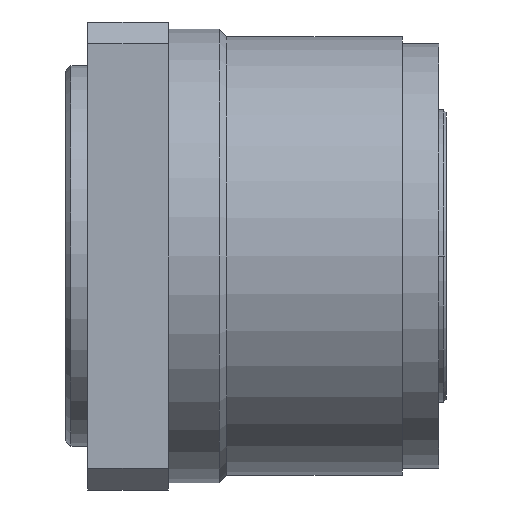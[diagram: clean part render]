
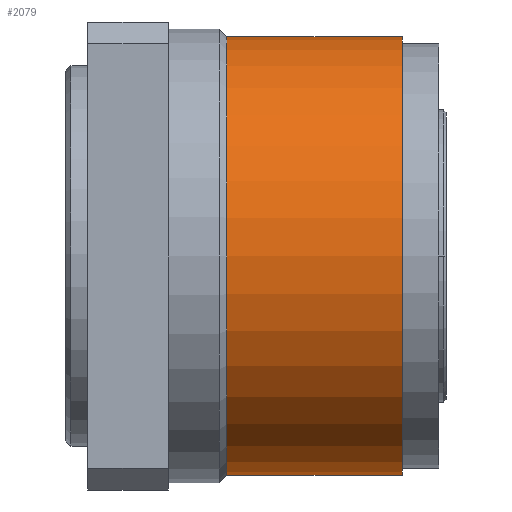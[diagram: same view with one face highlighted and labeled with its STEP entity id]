
A CAD part, front view. The second image highlights one B-rep face of the part: STEP entity #2079.
In plain terms, the highlighted cylindrical face has radius 15 mm (diameter 30 mm), a partial arc.
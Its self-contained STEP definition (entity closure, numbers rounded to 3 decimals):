
#12 = VERTEX_POINT ( 'NONE', #5213 ) ;
#109 = EDGE_CURVE ( 'NONE', #12, #6279, #3432, .T. ) ;
#193 = CYLINDRICAL_SURFACE ( 'NONE', #8105, 15. ) ;
#543 = CARTESIAN_POINT ( 'NONE',  ( 21.5, 0., -15. ) ) ;
#816 = DIRECTION ( 'NONE',  ( 0., 0., -1. ) ) ;
#831 = ORIENTED_EDGE ( 'NONE', *, *, #7973, .F. ) ;
#1049 = DIRECTION ( 'NONE',  ( 1., 0., 0. ) ) ;
#1528 = ORIENTED_EDGE ( 'NONE', *, *, #1547, .T. ) ;
#1547 = EDGE_CURVE ( 'NONE', #7296, #7124, #6180, .T. ) ;
#1808 = DIRECTION ( 'NONE',  ( 1., 0., 0. ) ) ;
#2079 = ADVANCED_FACE ( 'NONE', ( #3777 ), #193, .T. ) ;
#2346 = DIRECTION ( 'NONE',  ( 0., 0., -1. ) ) ;
#2713 = DIRECTION ( 'NONE',  ( 1., 0., 0. ) ) ;
#2980 = LINE ( 'NONE', #6909, #8056 ) ;
#3031 = AXIS2_PLACEMENT_3D ( 'NONE', #6589, #6625, #6649 ) ;
#3247 = DIRECTION ( 'NONE',  ( 1., 0., 0. ) ) ;
#3432 = CIRCLE ( 'NONE', #3031, 15. ) ;
#3489 = LINE ( 'NONE', #5122, #6475 ) ;
#3777 = FACE_OUTER_BOUND ( 'NONE', #7555, .T. ) ;
#4631 = CARTESIAN_POINT ( 'NONE',  ( 9.5, 0., 0. ) ) ;
#5122 = CARTESIAN_POINT ( 'NONE',  ( 9.5, 0., -15. ) ) ;
#5213 = CARTESIAN_POINT ( 'NONE',  ( 21.5, 0., 15. ) ) ;
#6026 = ORIENTED_EDGE ( 'NONE', *, *, #109, .F. ) ;
#6180 = CIRCLE ( 'NONE', #6422, 15. ) ;
#6279 = VERTEX_POINT ( 'NONE', #543 ) ;
#6422 = AXIS2_PLACEMENT_3D ( 'NONE', #4631, #2713, #816 ) ;
#6475 = VECTOR ( 'NONE', #3247, 1000. ) ;
#6589 = CARTESIAN_POINT ( 'NONE',  ( 21.5, 0., 0. ) ) ;
#6625 = DIRECTION ( 'NONE',  ( 1., 0., 0. ) ) ;
#6649 = DIRECTION ( 'NONE',  ( 0., 0., -1. ) ) ;
#6869 = ORIENTED_EDGE ( 'NONE', *, *, #7487, .T. ) ;
#6909 = CARTESIAN_POINT ( 'NONE',  ( 9.5, 0., 15. ) ) ;
#7124 = VERTEX_POINT ( 'NONE', #7235 ) ;
#7235 = CARTESIAN_POINT ( 'NONE',  ( 9.5, 0., -15. ) ) ;
#7296 = VERTEX_POINT ( 'NONE', #7392 ) ;
#7392 = CARTESIAN_POINT ( 'NONE',  ( 9.5, 0., 15. ) ) ;
#7487 = EDGE_CURVE ( 'NONE', #7124, #6279, #3489, .T. ) ;
#7555 = EDGE_LOOP ( 'NONE', ( #831, #1528, #6869, #6026 ) ) ;
#7973 = EDGE_CURVE ( 'NONE', #7296, #12, #2980, .T. ) ;
#8056 = VECTOR ( 'NONE', #1808, 1000. ) ;
#8082 = CARTESIAN_POINT ( 'NONE',  ( 9.5, 0., 0. ) ) ;
#8105 = AXIS2_PLACEMENT_3D ( 'NONE', #8082, #1049, #2346 ) ;
